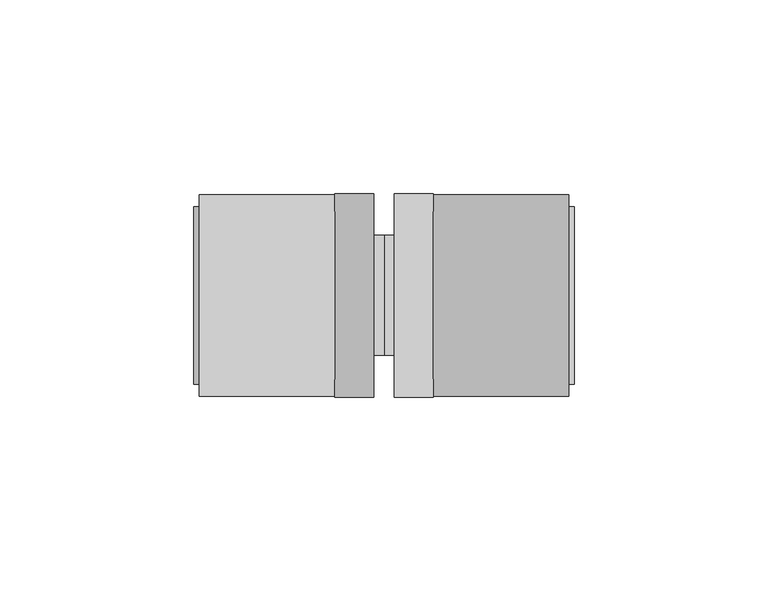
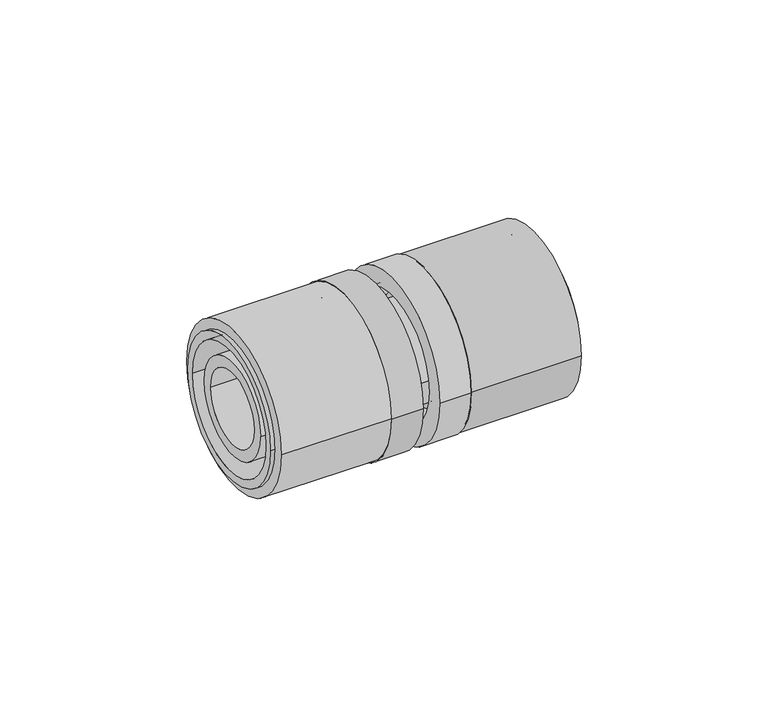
"""IFC4 building model written with IfcOpenShell, lengths in millimetres: pipe fitting geometry, FASTLOC_Coupling equal LX : FSL C LX CZ."""

from ifc_helpers import new_model, si_unit, point, frame, origin, origin_2d, place, context, project, spatial, polyline, circle_curve, trimmed, segment, composite_curve, outline, extrude, source, transform, mapped, element, save
from ifc_brep_helpers import plane_surface, cylinder_surface, revolved_surface, advanced_brep


def pipe_fitting_607ccf76(model_context):
    return source(origin(), model_context, "Body", "SolidModel", [
        extrude(outline(composite_curve([segment(trimmed(circle_curve(origin_2d(), 26.0), [point((-26.0, 0.0))], [point((26.0, 0.0))], False, "CARTESIAN"), True, "CONTINUOUS"), segment(trimmed(circle_curve(origin_2d(), 26.0), [point((26.0, 0.0))], [point((-26.0, 0.0))], False, "CARTESIAN"), True, "CONTINUOUS")], self_intersect=False), holes=[composite_curve([segment(trimmed(circle_curve(origin_2d(), 21.25), [point((-21.25, 0.0))], [point((21.25, 0.0))], True, "CARTESIAN"), True, "CONTINUOUS"), segment(trimmed(circle_curve(origin_2d(), 21.25), [point((21.25, 0.0))], [point((-21.25, 0.0))], True, "CARTESIAN"), True, "CONTINUOUS")], self_intersect=False)]), frame((12.7, 0.0, 0.0), z_axis=(1.0, 0.0, 0.0), x_axis=(0.0, 1.0, 0.0)), (0.0, 0.0, 1.0), 35.0),
        advanced_brep(
        [(12.7, 26.3, 0.0), (12.7, -26.3, 0.0), (2.7, -26.3, 0.0), (2.7, 26.3, 0.0), (49.2, 22.9, 0.0), (49.2, -22.9, 0.0), (12.7, -22.9, 0.0), (12.7, 22.9, 0.0), (2.7, 20.2, 0.0), (2.7, -20.2, 0.0), (49.2, -20.2, 0.0), (49.2, 20.2, 0.0)],
        [
            (0, 1, circle_curve(frame((12.7, 0.0, 0.0), z_axis=(-1.0, 0.0, 0.0), x_axis=(0.0, -1.0, 0.0)), 26.3)),
            (1, 2),
            (2, 3, circle_curve(frame((2.7, 0.0, 0.0), z_axis=(1.0, 0.0, 0.0), x_axis=(0.0, -1.0, 0.0)), 26.3)),
            (3, 0),
            (4, 5, circle_curve(frame((49.2, 0.0, 0.0), z_axis=(-1.0, 0.0, 0.0), x_axis=(0.0, -1.0, 0.0)), 22.9)),
            (5, 6),
            (6, 7, circle_curve(frame((12.7, 0.0, 0.0), z_axis=(1.0, 0.0, 0.0), x_axis=(0.0, -1.0, 0.0)), 22.9)),
            (7, 4),
            (8, 9, circle_curve(frame((2.7, 0.0, 0.0), z_axis=(-1.0, 0.0, 0.0), x_axis=(0.0, -1.0, 0.0)), 20.2)),
            (9, 10),
            (10, 11, circle_curve(frame((49.2, 0.0, 0.0), z_axis=(1.0, 0.0, 0.0), x_axis=(0.0, -1.0, 0.0)), 20.2)),
            (11, 8),
            (1, 0, circle_curve(frame((12.7, 0.0, 0.0), z_axis=(-1.0, 0.0, 0.0), x_axis=(0.0, 1.0, 0.0)), 26.3)),
            (3, 2, circle_curve(frame((2.7, 0.0, 0.0), z_axis=(1.0, 0.0, 0.0), x_axis=(0.0, 1.0, 0.0)), 26.3)),
            (6, 7, circle_curve(frame((12.7, 0.0, 0.0), z_axis=(-1.0, 0.0, 0.0), x_axis=(0.0, 1.0, 0.0)), 22.9)),
            (5, 4, circle_curve(frame((49.2, 0.0, 0.0), z_axis=(-1.0, 0.0, 0.0), x_axis=(0.0, 1.0, 0.0)), 22.9)),
            (10, 11, circle_curve(frame((49.2, 0.0, 0.0), z_axis=(-1.0, 0.0, 0.0), x_axis=(0.0, 1.0, 0.0)), 20.2)),
            (9, 8, circle_curve(frame((2.7, 0.0, 0.0), z_axis=(-1.0, 0.0, 0.0), x_axis=(0.0, 1.0, 0.0)), 20.2)),
        ],
        [
            cylinder_surface(frame((2.7, 0.0, 0.0), z_axis=(1.0, 0.0, 0.0), x_axis=(0.0, -1.0, 0.0)), 26.3),
            cylinder_surface(frame((2.7, 0.0, 0.0), z_axis=(1.0, 0.0, 0.0), x_axis=(0.0, -1.0, 0.0)), 22.9),
            revolved_surface(polyline([(49.2, -20.2, 0.0), (2.7, -20.2, 0.0)]), (2.7, 0.0, 0.0), (1.0, 0.0, 0.0)),
            cylinder_surface(frame((2.7, 0.0, 0.0), z_axis=(1.0, 0.0, 0.0), x_axis=(0.0, 1.0, 0.0)), 26.3),
            plane_surface(frame((12.7, 0.0, 0.0), z_axis=(1.0, 0.0, 0.0), x_axis=(0.0, 1.0, 0.0))),
            cylinder_surface(frame((2.7, 0.0, 0.0), z_axis=(1.0, 0.0, 0.0), x_axis=(0.0, 1.0, 0.0)), 22.9),
            plane_surface(frame((49.2, 0.0, 0.0), z_axis=(1.0, 0.0, 0.0), x_axis=(0.0, 1.0, 0.0))),
            revolved_surface(polyline([(49.2, 20.2, 0.0), (2.7, 20.2, 0.0)]), (2.7, 0.0, 0.0), (1.0, 0.0, 0.0)),
            plane_surface(frame((2.7, 0.0, 0.0), z_axis=(-1.0, 0.0, 0.0), x_axis=(0.0, 1.0, 0.0))),
        ],
        [
            (0, [[1, 2, 3, 4]]),
            (1, [[5, 6, 7, 8]]),
            (2, [[9, 10, 11, 12]]),
            (3, [[13, -4, 14, -2]]),
            (4, [[-13, -1], [15, -7]]),
            (5, [[16, -8, -15, -6]]),
            (6, [[-16, -5], [17, -11]]),
            (7, [[18, -12, -17, -10]]),
            (8, [[-14, -3], [-18, -9]]),
        ],
    ),
        extrude(outline(composite_curve([segment(trimmed(circle_curve(origin_2d(), 26.0), [point((26.0, 0.0))], [point((-26.0, 0.0))], False, "CARTESIAN"), True, "CONTINUOUS"), segment(trimmed(circle_curve(origin_2d(), 26.0), [point((-26.0, 0.0))], [point((26.0, 0.0))], False, "CARTESIAN"), True, "CONTINUOUS")], self_intersect=False), holes=[composite_curve([segment(trimmed(circle_curve(origin_2d(), 21.25), [point((21.25, 0.0))], [point((-21.25, 0.0))], True, "CARTESIAN"), True, "CONTINUOUS"), segment(trimmed(circle_curve(origin_2d(), 21.25), [point((-21.25, 0.0))], [point((21.25, 0.0))], True, "CARTESIAN"), True, "CONTINUOUS")], self_intersect=False)]), frame((-47.7, 0.0, 0.0), z_axis=(1.0, 0.0, 0.0), x_axis=(0.0, 1.0, 0.0)), (0.0, 0.0, 1.0), 35.0),
        advanced_brep(
        [(-12.7, -26.3, 0.0), (-12.7, 26.3, 0.0), (-2.7, 26.3, 0.0), (-2.7, -26.3, 0.0), (-49.2, -22.9, 0.0), (-49.2, 22.9, 0.0), (-12.7, 22.9, 0.0), (-12.7, -22.9, 0.0), (-2.7, -20.2, 0.0), (-2.7, 20.2, 0.0), (-49.2, 20.2, 0.0), (-49.2, -20.2, 0.0)],
        [
            (0, 1, circle_curve(frame((-12.7, 0.0, 0.0), z_axis=(1.0, 0.0, 0.0), x_axis=(0.0, 1.0, 0.0)), 26.3)),
            (1, 2),
            (2, 3, circle_curve(frame((-2.7, 0.0, 0.0), z_axis=(-1.0, 0.0, 0.0), x_axis=(0.0, 1.0, 0.0)), 26.3)),
            (3, 0),
            (4, 5, circle_curve(frame((-49.2, 0.0, 0.0), z_axis=(1.0, 0.0, 0.0), x_axis=(0.0, 1.0, 0.0)), 22.9)),
            (5, 6),
            (6, 7, circle_curve(frame((-12.7, 0.0, 0.0), z_axis=(-1.0, 0.0, 0.0), x_axis=(0.0, 1.0, 0.0)), 22.9)),
            (7, 4),
            (8, 9, circle_curve(frame((-2.7, 0.0, 0.0), z_axis=(1.0, 0.0, 0.0), x_axis=(0.0, 1.0, 0.0)), 20.2)),
            (9, 10),
            (10, 11, circle_curve(frame((-49.2, 0.0, 0.0), z_axis=(-1.0, 0.0, 0.0), x_axis=(0.0, 1.0, 0.0)), 20.2)),
            (11, 8),
            (1, 0, circle_curve(frame((-12.7, 0.0, 0.0), z_axis=(1.0, 0.0, 0.0), x_axis=(0.0, -1.0, 0.0)), 26.3)),
            (3, 2, circle_curve(frame((-2.7, 0.0, 0.0), z_axis=(-1.0, 0.0, 0.0), x_axis=(0.0, -1.0, 0.0)), 26.3)),
            (6, 7, circle_curve(frame((-12.7, 0.0, 0.0), z_axis=(1.0, 0.0, 0.0), x_axis=(0.0, -1.0, 0.0)), 22.9)),
            (5, 4, circle_curve(frame((-49.2, 0.0, 0.0), z_axis=(1.0, 0.0, 0.0), x_axis=(0.0, -1.0, 0.0)), 22.9)),
            (10, 11, circle_curve(frame((-49.2, 0.0, 0.0), z_axis=(1.0, 0.0, 0.0), x_axis=(0.0, -1.0, 0.0)), 20.2)),
            (9, 8, circle_curve(frame((-2.7, 0.0, 0.0), z_axis=(1.0, 0.0, 0.0), x_axis=(0.0, -1.0, 0.0)), 20.2)),
        ],
        [
            cylinder_surface(frame((-2.7, 0.0, 0.0), z_axis=(-1.0, 0.0, 0.0), x_axis=(0.0, 1.0, 0.0)), 26.3),
            cylinder_surface(frame((-2.7, 0.0, 0.0), z_axis=(-1.0, 0.0, 0.0), x_axis=(0.0, 1.0, 0.0)), 22.9),
            revolved_surface(polyline([(-49.2, 20.2, 0.0), (-2.7, 20.2, 0.0)]), (-2.7, 0.0, 0.0), (-1.0, 0.0, 0.0)),
            cylinder_surface(frame((-2.7, 0.0, 0.0), z_axis=(-1.0, 0.0, 0.0), x_axis=(0.0, -1.0, 0.0)), 26.3),
            plane_surface(frame((-12.7, 0.0, 0.0), z_axis=(-1.0, 0.0, 0.0), x_axis=(0.0, -1.0, 0.0))),
            cylinder_surface(frame((-2.7, 0.0, 0.0), z_axis=(-1.0, 0.0, 0.0), x_axis=(0.0, -1.0, 0.0)), 22.9),
            plane_surface(frame((-49.2, 0.0, 0.0), z_axis=(-1.0, 0.0, 0.0), x_axis=(0.0, -1.0, 0.0))),
            revolved_surface(polyline([(-49.2, -20.2, 0.0), (-2.7, -20.2, 0.0)]), (-2.7, 0.0, 0.0), (-1.0, 0.0, 0.0)),
            plane_surface(frame((-2.7, 0.0, 0.0), z_axis=(1.0, 0.0, 0.0), x_axis=(0.0, -1.0, 0.0))),
        ],
        [
            (0, [[1, 2, 3, 4]]),
            (1, [[5, 6, 7, 8]]),
            (2, [[9, 10, 11, 12]]),
            (3, [[13, -4, 14, -2]]),
            (4, [[-13, -1], [15, -7]]),
            (5, [[16, -8, -15, -6]]),
            (6, [[-16, -5], [17, -11]]),
            (7, [[18, -12, -17, -10]]),
            (8, [[-14, -3], [-18, -9]]),
        ],
    ),
        advanced_brep(
        [(12.7, 17.2, 0.0), (12.7, -17.2, 0.0), (9.0, -17.2, 0.0), (9.0, 17.2, 0.0), (48.2, 15.5, 0.0), (48.2, -15.5, 0.0), (12.7, -15.5, 0.0), (12.7, 15.5, 0.0), (-48.2, 11.95, 0.0), (-48.2, -11.95, 0.0), (48.2, -11.95, 0.0), (48.2, 11.95, 0.0), (-12.7, 15.5, 0.0), (-12.7, -15.5, 0.0), (-48.2, -15.5, 0.0), (-48.2, 15.5, 0.0), (-9.0, 17.2, 0.0), (-9.0, -17.2, 0.0), (-12.7, -17.2, 0.0), (-12.7, 17.2, 0.0), (0.0, 15.5, 0.0), (0.0, -15.5, 0.0), (-9.0, -15.5, 0.0), (-9.0, 15.5, 0.0), (9.0, 15.5, 0.0), (9.0, -15.5, 0.0)],
        [
            (0, 1, circle_curve(frame((12.7, 0.0, 0.0), z_axis=(-1.0, 0.0, 0.0), x_axis=(0.0, -1.0, 0.0)), 17.2)),
            (1, 2),
            (2, 3, circle_curve(frame((9.0, 0.0, 0.0), z_axis=(1.0, 0.0, 0.0), x_axis=(0.0, -1.0, 0.0)), 17.2)),
            (3, 0),
            (4, 5, circle_curve(frame((48.2, 0.0, 0.0), z_axis=(-1.0, 0.0, 0.0), x_axis=(0.0, -1.0, 0.0)), 15.5)),
            (5, 6),
            (6, 7, circle_curve(frame((12.7, 0.0, 0.0), z_axis=(1.0, 0.0, 0.0), x_axis=(0.0, -1.0, 0.0)), 15.5)),
            (7, 4),
            (8, 9, circle_curve(frame((-48.2, 0.0, 0.0), z_axis=(-1.0, 0.0, 0.0), x_axis=(0.0, -1.0, 0.0)), 11.95)),
            (9, 10),
            (10, 11, circle_curve(frame((48.2, 0.0, 0.0), z_axis=(1.0, 0.0, 0.0), x_axis=(0.0, -1.0, 0.0)), 11.95)),
            (11, 8),
            (12, 13, circle_curve(frame((-12.7, 0.0, 0.0), z_axis=(-1.0, 0.0, 0.0), x_axis=(0.0, -1.0, 0.0)), 15.5)),
            (13, 14),
            (14, 15, circle_curve(frame((-48.2, 0.0, 0.0), z_axis=(1.0, 0.0, 0.0), x_axis=(0.0, -1.0, 0.0)), 15.5)),
            (15, 12),
            (16, 17, circle_curve(frame((-9.0, 0.0, 0.0), z_axis=(-1.0, 0.0, 0.0), x_axis=(0.0, -1.0, 0.0)), 17.2)),
            (17, 18),
            (18, 19, circle_curve(frame((-12.7, 0.0, 0.0), z_axis=(1.0, 0.0, 0.0), x_axis=(0.0, -1.0, 0.0)), 17.2)),
            (19, 16),
            (20, 21, circle_curve(frame((0.0, 0.0, 0.0), z_axis=(-1.0, 0.0, 0.0), x_axis=(0.0, -1.0, 0.0)), 15.5)),
            (21, 22),
            (22, 23, circle_curve(frame((-9.0, 0.0, 0.0), z_axis=(1.0, 0.0, 0.0), x_axis=(0.0, -1.0, 0.0)), 15.5)),
            (23, 20),
            (24, 25, circle_curve(frame((9.0, 0.0, 0.0), z_axis=(-1.0, 0.0, 0.0), x_axis=(0.0, -1.0, 0.0)), 15.5)),
            (25, 21),
            (20, 24),
            (1, 0, circle_curve(frame((12.7, 0.0, 0.0), z_axis=(-1.0, 0.0, 0.0), x_axis=(0.0, 1.0, 0.0)), 17.2)),
            (3, 2, circle_curve(frame((9.0, 0.0, 0.0), z_axis=(1.0, 0.0, 0.0), x_axis=(0.0, 1.0, 0.0)), 17.2)),
            (6, 7, circle_curve(frame((12.7, 0.0, 0.0), z_axis=(-1.0, 0.0, 0.0), x_axis=(0.0, 1.0, 0.0)), 15.5)),
            (5, 4, circle_curve(frame((48.2, 0.0, 0.0), z_axis=(-1.0, 0.0, 0.0), x_axis=(0.0, 1.0, 0.0)), 15.5)),
            (10, 11, circle_curve(frame((48.2, 0.0, 0.0), z_axis=(-1.0, 0.0, 0.0), x_axis=(0.0, 1.0, 0.0)), 11.95)),
            (9, 8, circle_curve(frame((-48.2, 0.0, 0.0), z_axis=(-1.0, 0.0, 0.0), x_axis=(0.0, 1.0, 0.0)), 11.95)),
            (14, 15, circle_curve(frame((-48.2, 0.0, 0.0), z_axis=(-1.0, 0.0, 0.0), x_axis=(0.0, 1.0, 0.0)), 15.5)),
            (13, 12, circle_curve(frame((-12.7, 0.0, 0.0), z_axis=(-1.0, 0.0, 0.0), x_axis=(0.0, 1.0, 0.0)), 15.5)),
            (18, 19, circle_curve(frame((-12.7, 0.0, 0.0), z_axis=(-1.0, 0.0, 0.0), x_axis=(0.0, 1.0, 0.0)), 17.2)),
            (17, 16, circle_curve(frame((-9.0, 0.0, 0.0), z_axis=(-1.0, 0.0, 0.0), x_axis=(0.0, 1.0, 0.0)), 17.2)),
            (22, 23, circle_curve(frame((-9.0, 0.0, 0.0), z_axis=(-1.0, 0.0, 0.0), x_axis=(0.0, 1.0, 0.0)), 15.5)),
            (21, 20, circle_curve(frame((0.0, 0.0, 0.0), z_axis=(-1.0, 0.0, 0.0), x_axis=(0.0, 1.0, 0.0)), 15.5)),
            (25, 24, circle_curve(frame((9.0, 0.0, 0.0), z_axis=(-1.0, 0.0, 0.0), x_axis=(0.0, 1.0, 0.0)), 15.5)),
        ],
        [
            cylinder_surface(frame((0.0, 0.0, 0.0), z_axis=(1.0, 0.0, 0.0), x_axis=(0.0, -1.0, 0.0)), 17.2),
            cylinder_surface(frame((0.0, 0.0, 0.0), z_axis=(1.0, 0.0, 0.0), x_axis=(0.0, -1.0, 0.0)), 15.5),
            revolved_surface(polyline([(48.2, -11.95, 0.0), (-48.2, -11.95, 0.0)]), (0.0, 0.0, 0.0), (1.0, 0.0, 0.0)),
            cylinder_surface(frame((0.0, 0.0, 0.0), z_axis=(1.0, 0.0, 0.0), x_axis=(0.0, 1.0, 0.0)), 17.2),
            plane_surface(frame((12.7, 0.0, 0.0), z_axis=(1.0, 0.0, 0.0), x_axis=(0.0, 1.0, 0.0))),
            cylinder_surface(frame((0.0, 0.0, 0.0), z_axis=(1.0, 0.0, 0.0), x_axis=(0.0, 1.0, 0.0)), 15.5),
            plane_surface(frame((48.2, 0.0, 0.0), z_axis=(1.0, 0.0, 0.0), x_axis=(0.0, 1.0, 0.0))),
            revolved_surface(polyline([(48.2, 11.95, 0.0), (-48.2, 11.95, 0.0)]), (0.0, 0.0, 0.0), (1.0, 0.0, 0.0)),
            plane_surface(frame((-48.2, 0.0, 0.0), z_axis=(-1.0, 0.0, 0.0), x_axis=(0.0, 1.0, 0.0))),
            plane_surface(frame((-12.7, 0.0, 0.0), z_axis=(-1.0, 0.0, 0.0), x_axis=(0.0, 1.0, 0.0))),
            plane_surface(frame((-9.0, 0.0, 0.0), z_axis=(1.0, 0.0, 0.0), x_axis=(0.0, 1.0, 0.0))),
            plane_surface(frame((9.0, 0.0, 0.0), z_axis=(-1.0, 0.0, 0.0), x_axis=(0.0, 1.0, 0.0))),
        ],
        [
            (0, [[1, 2, 3, 4]]),
            (1, [[5, 6, 7, 8]]),
            (2, [[9, 10, 11, 12]]),
            (1, [[13, 14, 15, 16]]),
            (0, [[17, 18, 19, 20]]),
            (1, [[21, 22, 23, 24]]),
            (1, [[25, 26, -21, 27]]),
            (3, [[28, -4, 29, -2]]),
            (4, [[-28, -1], [30, -7]]),
            (5, [[31, -8, -30, -6]]),
            (6, [[-31, -5], [32, -11]]),
            (7, [[33, -12, -32, -10]]),
            (8, [[34, -15], [-33, -9]]),
            (5, [[35, -16, -34, -14]]),
            (9, [[36, -19], [-35, -13]]),
            (3, [[37, -20, -36, -18]]),
            (10, [[-37, -17], [38, -23]]),
            (5, [[39, -24, -38, -22]]),
            (5, [[40, -27, -39, -26]]),
            (11, [[-29, -3], [-40, -25]]),
        ],
    ),
    ])


if __name__ == "__main__":
    model = new_model("IFC4")
    model_context = context("Model", 3, world=origin())
    ifc_project = project(units=[si_unit("LENGTHUNIT", "METRE", prefix="MILLI")], contexts=[model_context])
    site = spatial("IfcSite", under=ifc_project)
    building = spatial("IfcBuilding", under=site)
    placement = place(None, origin())
    pipe_fitting_shape = pipe_fitting_607ccf76(model_context)
    element("IfcPipeFitting", 1, ObjectType="FASTLOC_Coupling equal LX : FSL C LX CZ", at=placement, inside=building, context=model_context, shape_type="MappedRepresentation", body=[
        mapped(pipe_fitting_shape, transform((0.0, 0.0, 0.0), x_axis=(1.0, 0.0, 0.0), y_axis=(0.0, 1.0, 0.0), z_axis=(0.0, 0.0, 1.0))),
    ])
    save(model, "model.ifc")
